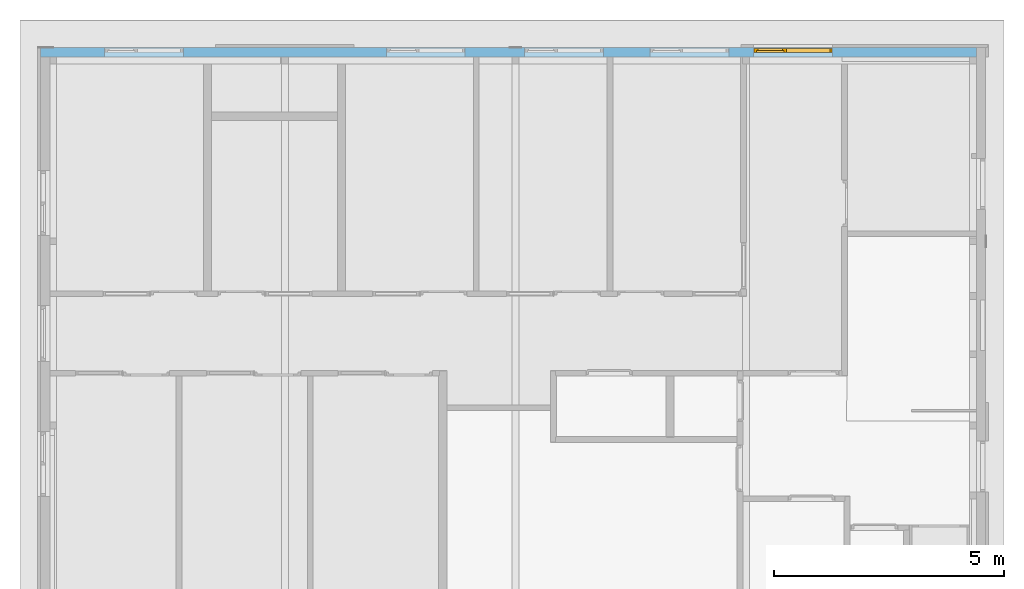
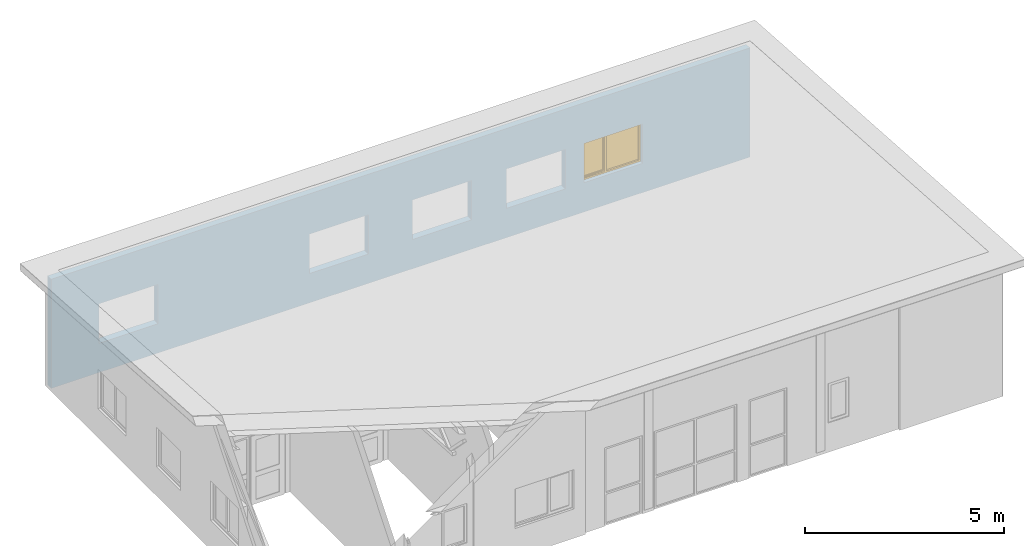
# One storey, part 25 of 37: 1 window, 5 openings, plus 1 element that does not belong to this part.
"""IFC2X3 building model written with IfcOpenShell, lengths in millimetres."""

import ifcopenshell
import ifcopenshell.guid

model = None  # the IFC model being written
_history = None  # IfcOwnerHistory: only IFC2X3 demands one
_inside = {}  # id of a spatial element -> (the spatial element, [elements in it])
_under = {}  # id of a project, library or spatial element -> (it, [spatial elements below it])
_declared = {}  # id of a project -> (the project, [libraries it declares])
_typed = {}  # id of a type object -> (the type object, [elements of that type])
_made_of = {}  # id of a material, layer set ... -> (it, [elements and type objects made of it])


def new_model(schema):
    """Start an empty IFC model of exactly this schema.

    Asked for "IFC4X3", IfcOpenShell would pick the latest addendum, in which some entities
    have other attributes; the version numbers below select the first issue.
    IFC2X3 requires an IfcOwnerHistory on every rooted entity: one is made here for all.
    """
    global model, _history
    if schema == "IFC4X3":
        model = ifcopenshell.file(schema_version=(4, 3, 0, 0))
    else:
        model = ifcopenshell.file(schema=schema)
    _inside.clear()
    _under.clear()
    _declared.clear()
    _typed.clear()
    _made_of.clear()
    _history = None
    if model.schema == "IFC2X3":
        org = make("IfcOrganization", Name="unknown")
        user = make(
            "IfcPersonAndOrganization",
            ThePerson=make("IfcPerson", FamilyName="unknown"),
            TheOrganization=org,
        )
        app = make(
            "IfcApplication",
            ApplicationDeveloper=org,
            Version="unknown",
            ApplicationFullName="unknown",
            ApplicationIdentifier="unknown",
        )
        _history = make(
            "IfcOwnerHistory",
            OwningUser=user,
            OwningApplication=app,
            ChangeAction="ADDED",
            CreationDate=0,
        )
    return model


def make(cls, **values):
    """One entity of the class cls with the attributes given. An attribute that is None is left unset."""
    return model.create_entity(
        cls, **{name: value for name, value in values.items() if value is not None}
    )


def entity(cls, *values):
    """Any entity or typed value of the class cls, its attributes in the order of the schema. None: left unset."""
    e = model.create_entity(cls)
    for i, value in enumerate(values):
        if value is not None:
            e[i] = value
    return e


def rooted(cls, **values):
    """An entity with a GlobalId (a new one), such as an element, a storey or a relation."""
    return make(cls, GlobalId=ifcopenshell.guid.new(), OwnerHistory=_history, **values)


def si_unit(unit_type, name, prefix=None):
    """IfcSIUnit, for example si_unit("LENGTHUNIT", "METRE", prefix="MILLI")."""
    return make("IfcSIUnit", UnitType=unit_type, Prefix=prefix, Name=name)


def converted_unit(unit_type, name, factor, base, dimensions=None, offset=None):
    """IfcConversionBasedUnit, such as the inch: factor (a typed value) times the base unit."""
    return make(
        "IfcConversionBasedUnit"
        if offset is None
        else "IfcConversionBasedUnitWithOffset",
        ConversionOffset=offset,
        Dimensions=None
        if dimensions is None
        else entity("IfcDimensionalExponents", *dimensions),
        UnitType=unit_type,
        Name=name,
        ConversionFactor=make(
            "IfcMeasureWithUnit", ValueComponent=factor, UnitComponent=base
        ),
    )


def assignment(units):
    """IfcUnitAssignment: the units of a project."""
    return None if units is None else make("IfcUnitAssignment", Units=units)


def point(xyz):
    """IfcCartesianPoint."""
    return None if xyz is None else make("IfcCartesianPoint", Coordinates=xyz)


def direction(xyz):
    """IfcDirection."""
    return None if xyz is None else make("IfcDirection", DirectionRatios=xyz)


def frame(location, z_axis=None, x_axis=None):
    """IfcAxis2Placement3D, a coordinate frame: its origin and axes. An axis left out is left unset."""
    return make(
        "IfcAxis2Placement3D",
        Location=point(location),
        Axis=direction(z_axis),
        RefDirection=direction(x_axis),
    )


def frame_2d(location, x_axis=None):
    """IfcAxis2Placement2D, a coordinate frame in the plane: its origin and x axis."""
    return make(
        "IfcAxis2Placement2D", Location=point(location), RefDirection=direction(x_axis)
    )


def origin():
    """The frame at (0, 0, 0) with its axes left unset."""
    return frame((0.0, 0.0, 0.0))


def origin_with_axes():
    """The frame at (0, 0, 0) with the z axis (0, 0, 1) and the x axis (1, 0, 0) written out."""
    return frame((0.0, 0.0, 0.0), z_axis=(0.0, 0.0, 1.0), x_axis=(1.0, 0.0, 0.0))


def place(relative_to, where):
    """IfcLocalPlacement: puts the frame where relative to a parent placement (None: the world)."""
    return make(
        "IfcLocalPlacement", PlacementRelTo=relative_to, RelativePlacement=where
    )


def context(
    kind, dimensions, precision=None, world=None, true_north=None, identifier=None
):
    """IfcGeometricRepresentationContext, for example the 3D "Model" context."""
    return make(
        "IfcGeometricRepresentationContext",
        ContextIdentifier=identifier,
        ContextType=kind,
        CoordinateSpaceDimension=dimensions,
        Precision=precision,
        WorldCoordinateSystem=world,
        TrueNorth=true_north,
    )


def subcontext(parent, identifier, kind, view, scale=None):
    """IfcGeometricRepresentationSubContext, for example "Body" below "Model"."""
    return make(
        "IfcGeometricRepresentationSubContext",
        ContextIdentifier=identifier,
        ContextType=kind,
        ParentContext=parent,
        TargetScale=scale,
        TargetView=view,
    )


def project(units=None, contexts=None):
    """IfcProject with its units and contexts."""
    return rooted(
        "IfcProject",
        Name="project",
        RepresentationContexts=contexts,
        UnitsInContext=assignment(units),
    )


def spatial(cls, under=None, at=None, **own):
    """A site, building, storey or space (cls), placed at a placement, below another one or the project."""
    s = rooted(cls, ObjectPlacement=at, **own)
    if under is not None:
        _under.setdefault(under.id(), (under, []))[1].append(s)
    return s


def profile(cls, at=None, kind="AREA", **sizes):
    """A parametric profile (cls). Its sizes go by their IFC names, for example OverallWidth=200.0."""
    return make(cls, ProfileType=kind, Position=at, **sizes)


def rectangle(**sizes):
    """IfcRectangleProfileDef."""
    return profile("IfcRectangleProfileDef", **sizes)


def extrude(swept, where, along, depth):
    """IfcExtrudedAreaSolid: the profile swept, set in the frame where, extruded along a direction by depth."""
    return make(
        "IfcExtrudedAreaSolid",
        SweptArea=swept,
        Position=where,
        ExtrudedDirection=direction(along),
        Depth=depth,
    )


def clip(a, b, op="DIFFERENCE"):
    """IfcBooleanClippingResult: the solid a cut by the half space b."""
    return make(
        "IfcBooleanClippingResult", Operator=op, FirstOperand=a, SecondOperand=b
    )


def halfspace(plane, agree):
    """IfcHalfSpaceSolid: all space on one side of the plane z = 0 of the frame plane."""
    return make(
        "IfcHalfSpaceSolid",
        BaseSurface=make("IfcPlane", Position=plane),
        AgreementFlag=agree,
    )


def faces_of(points, faces, orient=None, outer=None):
    """IfcFace entities. A face is a list of loops; a loop is a list of indices into points, from 0.

    orient and outer hold one flag for each loop. By default every Orientation is true, the
    first loop of a face is its IfcFaceOuterBound and the others are IfcFaceBound.
    """
    made = []
    for i, loops in enumerate(faces):
        bounds = []
        for j, loop in enumerate(loops):
            is_outer = j == 0 if outer is None else outer[i][j]
            bounds.append(
                make(
                    "IfcFaceOuterBound" if is_outer else "IfcFaceBound",
                    Bound=make("IfcPolyLoop", Polygon=[points[k] for k in loop]),
                    Orientation=True if orient is None else orient[i][j],
                )
            )
        made.append(make("IfcFace", Bounds=bounds))
    return made


def faceted_brep(points, faces, orient=None, outer=None, voids=None):
    """IfcFacetedBrep: a solid bounded by flat faces; with voids (closed shells), ...WithVoids."""
    shared = [point(p) for p in points]
    hull = make("IfcClosedShell", CfsFaces=faces_of(shared, faces, orient, outer))
    if voids is None:
        return make("IfcFacetedBrep", Outer=hull)
    return make(
        "IfcFacetedBrepWithVoids",
        Outer=hull,
        Voids=[
            make(cls, CfsFaces=faces_of(shared, fs, o, b)) for cls, fs, o, b in voids
        ],
    )


def shape(context_of_items, identifier, shape_type, items):
    """IfcShapeRepresentation: the items that make up one representation, for example the "Body"."""
    return make(
        "IfcShapeRepresentation",
        ContextOfItems=context_of_items,
        RepresentationIdentifier=identifier,
        RepresentationType=shape_type,
        Items=items,
    )


def material(Name=None, Category=None):
    """IfcMaterial."""
    return make("IfcMaterial", Name=Name, Category=Category)


def layer(
    of_material, thickness, ventilated=None, Name=None, Category=None, Priority=None
):
    """IfcMaterialLayer: one layer of a wall or slab, of a material (None: an air gap)."""
    return make(
        "IfcMaterialLayer",
        Material=of_material,
        LayerThickness=thickness,
        IsVentilated=ventilated,
        Name=Name,
        Category=Category,
        Priority=Priority,
    )


def layer_set(layers, Name=None):
    """IfcMaterialLayerSet."""
    return make("IfcMaterialLayerSet", MaterialLayers=layers, LayerSetName=Name)


def layer_usage(for_layer_set, set_direction, sense, offset, extent=None):
    """IfcMaterialLayerSetUsage: how a layer set lies in its element."""
    return make(
        "IfcMaterialLayerSetUsage",
        ForLayerSet=for_layer_set,
        LayerSetDirection=set_direction,
        DirectionSense=sense,
        OffsetFromReferenceLine=offset,
        ReferenceExtent=extent,
    )


def made_of(thing, what):
    """Note that an element or type object is made of a material, layer set ...; save() writes the relation."""
    if what is not None:
        _made_of.setdefault(what.id(), (what, []))[1].append(thing)
    return thing


def type_object(cls, material=None, **own):
    """A type object (cls), such as IfcWallType, which elements share."""
    return made_of(rooted(cls, **own), material)


def element(
    cls,
    number,
    at=None,
    inside=None,
    cuts=None,
    type_object=None,
    material=None,
    context=None,
    identifier="Body",
    shape_type=None,
    held_by="IfcProductDefinitionShape",
    body=None,
    shapes=None,
    **own,
):
    """One element of the class cls, such as IfcWall. Its Tag is "e" and its number.

    at: its placement. inside: the storey or other place that contains it. cuts: it is an
    opening in that element (IfcRelVoidsElement). A single representation is given by context,
    identifier, shape_type and body (its items); several are given by shapes. held_by: the class
    of the entity that holds the representations. save() writes the other relations.
    """
    e = rooted(cls, Tag="e%d" % number, ObjectPlacement=at, **own)
    if body is not None:
        shapes = [shape(context, identifier, shape_type, body)]
    if shapes is not None:
        e.Representation = make(held_by, Representations=shapes)
    if inside is not None:
        _inside.setdefault(inside.id(), (inside, []))[1].append(e)
    if cuts is not None:
        rooted(
            "IfcRelVoidsElement", RelatingBuildingElement=cuts, RelatedOpeningElement=e
        )
    if type_object is not None:
        _typed.setdefault(type_object.id(), (type_object, []))[1].append(e)
    return made_of(e, material)


def fill(opening, filler):
    """IfcRelFillsElement: the door or window that sits in an opening."""
    return rooted(
        "IfcRelFillsElement",
        RelatingOpeningElement=opening,
        RelatedBuildingElement=filler,
    )


def aggregate(whole, parts):
    """IfcRelAggregates: a whole, such as a stair, and the parts it consists of."""
    return rooted("IfcRelAggregates", RelatingObject=whole, RelatedObjects=parts)


def save(model, path):
    """Write the relations noted so far, then the file.

    IfcRelAggregates (storeys below a building ...), IfcRelContainedInSpatialStructure (elements
    in a storey), IfcRelDefinesByType, IfcRelAssociatesMaterial and IfcRelDeclares: one each for
    every whole, place, type object, material and project.
    """
    for whole, parts in _under.values():
        aggregate(whole, parts)
    for where, things in _inside.values():
        rooted(
            "IfcRelContainedInSpatialStructure",
            RelatedElements=things,
            RelatingStructure=where,
        )
    for kind, things in _typed.values():
        rooted("IfcRelDefinesByType", RelatedObjects=things, RelatingType=kind)
    for what, things in _made_of.values():
        rooted("IfcRelAssociatesMaterial", RelatedObjects=things, RelatingMaterial=what)
    for by, libraries in _declared.values():
        rooted("IfcRelDeclares", RelatingContext=by, RelatedDefinitions=libraries)
    model.write(path)


model = new_model("IFC2X3")

# Units and contexts
model_context = context("Model", 3, precision=1e-05, world=origin())
plan_context = context("Plan", 3, precision=1e-05, world=origin())
body_context = subcontext(model_context, "Body", "Model", "MODEL_VIEW")
ifc_project = project(units=[si_unit("LENGTHUNIT", "METRE", prefix="MILLI"), converted_unit("PLANEANGLEUNIT", "DEGREE", entity("IfcPlaneAngleMeasure", 0.0174532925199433), si_unit("PLANEANGLEUNIT", "RADIAN"), dimensions=[0, 0, 0, 0, 0, 0, 0]), si_unit("AREAUNIT", "SQUARE_METRE"), si_unit("VOLUMEUNIT", "CUBIC_METRE")], contexts=[model_context, plan_context])

# Building, storey
building_placement = place(None, origin())
building = spatial("IfcBuilding", under=ifc_project, at=building_placement, Name="HEKF Administrasjonbygg", CompositionType="ELEMENT")
storey_placement = place(building_placement, frame((0.0, 0.0, 9900.0), z_axis=(0.0, 0.0, 1.0), x_axis=(1.0, 0.0, 0.0)))
storey = spatial("IfcBuildingStorey", under=building, at=storey_placement, Name="Plan 2", CompositionType="ELEMENT", Elevation=9900.0)

# Wall, openings, window
ifc_material_1 = material(Name="Paroc 200")
ifc_layer = layer(ifc_material_1, 200.0)
ifc_layer_set = layer_set([ifc_layer])
ifc_layer_usage = layer_usage(ifc_layer_set, "AXIS2", "POSITIVE", 0.0)
wall_placement = place(storey_placement, frame((9699.999999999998, 0.0, 0.0), z_axis=(0.0, 0.0, 1.0), x_axis=(1.0, 0.0, 0.0)))
wall = element("IfcWallStandardCase", 1, at=wall_placement, inside=storey, material=ifc_layer_usage, context=body_context, shape_type="Clipping", body=[
    clip(extrude(rectangle(XDim=20300.0, YDim=200.0, at=frame_2d((10150.0, 100.0), x_axis=(1.0, 0.0))), origin_with_axes(), (0.0, 0.0, 1.0), 3349.999999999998), halfspace(frame((0.0, 0.0, 3349.999999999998), z_axis=(0.0, -0.06651901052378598, -0.9977851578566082), x_axis=(1.0, 0.0, 0.0)), True)),
])
opening_1_placement = place(wall_placement, frame((15470.0, 0.0, 900.0), z_axis=(0.0, 1.0, 0.0), x_axis=(0.0, 0.0, 1.0)))
opening_1 = element("IfcOpeningElement", 2, at=opening_1_placement, cuts=wall, Name="Window opening", ObjectType="Opening", context=body_context, shape_type="SweptSolid", body=[
    extrude(rectangle(XDim=1210.0, YDim=1710.0, at=frame_2d((605.0, 855.0), x_axis=(1.0, 0.0))), origin_with_axes(), (0.0, 0.0, 1.0), 200.0),
])
opening_2_placement = place(wall_placement, frame((7500.000000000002, 0.0, 900.0), z_axis=(0.0, 1.0, 0.0), x_axis=(0.0, 0.0, 1.0)))
element("IfcOpeningElement", 3, at=opening_2_placement, cuts=wall, Name="Window opening", ObjectType="Opening", context=body_context, shape_type="SweptSolid", body=[
    extrude(rectangle(XDim=1210.0, YDim=1710.0, at=frame_2d((605.0, 855.0), x_axis=(1.0, 0.0))), origin_with_axes(), (0.0, 0.0, 1.0), 200.0),
])
opening_3_placement = place(wall_placement, frame((13220.0, 0.0, 900.0), z_axis=(0.0, 1.0, 0.0), x_axis=(0.0, 0.0, 1.0)))
element("IfcOpeningElement", 4, at=opening_3_placement, cuts=wall, Name="Window opening", ObjectType="Opening", context=body_context, shape_type="SweptSolid", body=[
    extrude(rectangle(XDim=1210.0, YDim=1710.0, at=frame_2d((605.0, 855.0), x_axis=(1.0, 0.0))), origin_with_axes(), (0.0, 0.0, 1.0), 200.0),
])
opening_4_placement = place(wall_placement, frame((10500.0, 0.0, 900.0), z_axis=(0.0, 1.0, 0.0), x_axis=(0.0, 0.0, 1.0)))
element("IfcOpeningElement", 5, at=opening_4_placement, cuts=wall, Name="Window opening", ObjectType="Opening", context=body_context, shape_type="SweptSolid", body=[
    extrude(rectangle(XDim=1210.0, YDim=1710.0, at=frame_2d((605.0, 855.0), x_axis=(1.0, 0.0))), origin_with_axes(), (0.0, 0.0, 1.0), 200.0),
])
opening_5_placement = place(wall_placement, frame((1390.000000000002, 0.0, 900.0), z_axis=(0.0, 1.0, 0.0), x_axis=(0.0, 0.0, 1.0)))
element("IfcOpeningElement", 6, at=opening_5_placement, cuts=wall, Name="Window opening", ObjectType="Opening", context=body_context, shape_type="SweptSolid", body=[
    extrude(rectangle(XDim=1210.0, YDim=1710.0, at=frame_2d((605.0, 855.0), x_axis=(1.0, 0.0))), origin_with_axes(), (0.0, 0.0, 1.0), 200.0),
])
ifc_material_2 = material()
window_style = type_object("IfcWindowStyle", Name="V210", ConstructionType="NOTDEFINED", OperationType="USERDEFINED", ParameterTakesPrecedence=False, Sizeable=False)
window_placement = place(opening_1_placement, frame((0.0, 0.0, 0.0), z_axis=(1.0, 0.0, 0.0), x_axis=(0.0, 1.0, 0.0)))
window = element("IfcWindow", 7, at=window_placement, inside=storey, type_object=window_style, material=ifc_material_2, Name="V210", OverallHeight=1210.0, OverallWidth=1710.0, context=body_context, shape_type="Brep", body=[
    faceted_brep([(1700.0, 93.99999999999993, 1200.0), (1700.0, 94.0, 9.999999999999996), (1650.0, 94.00000000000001, 9.999999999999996), (1650.0, 93.99999999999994, 1200.0), (1700.0, 186.0, 10.0), (1700.0, 185.9999999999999, 1200.0), (1650.0, 185.9999999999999, 1200.0), (1650.0, 186.0, 10.0), (1700.0, 94.0, 9.999999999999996), (1700.0, 93.99999999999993, 1200.0), (1700.0, 185.9999999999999, 1200.0), (1700.0, 186.0, 10.0), (1650.0, 94.00000000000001, 9.999999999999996), (1700.0, 94.0, 9.999999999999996), (1700.0, 186.0, 10.0), (1650.0, 186.0, 10.0), (1650.0, 93.99999999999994, 1200.0), (1650.0, 94.00000000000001, 9.999999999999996), (1650.0, 186.0, 10.0), (1650.0, 185.9999999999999, 1200.0), (1700.0, 93.99999999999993, 1200.0), (1650.0, 93.99999999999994, 1200.0), (1650.0, 185.9999999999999, 1200.0), (1700.0, 185.9999999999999, 1200.0)], [[[0, 1, 2, 3]], [[4, 5, 6, 7]], [[8, 9, 10, 11]], [[12, 13, 14, 15]], [[16, 17, 18, 19]], [[20, 21, 22, 23]]], orient=[[False], [False], [False], [False], [False], [False]]),
    faceted_brep([(60.0, 94.00000000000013, 1200.0), (60.0, 94.0000000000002, 9.999999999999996), (10.0, 94.00000000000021, 9.999999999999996), (10.0, 94.00000000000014, 1200.0), (60.0, 186.0000000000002, 10.0), (60.0, 186.0000000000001, 1200.0), (10.0, 186.0000000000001, 1200.0), (10.0, 186.0000000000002, 10.0), (60.0, 94.0000000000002, 9.999999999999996), (60.0, 94.00000000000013, 1200.0), (60.0, 186.0000000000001, 1200.0), (60.0, 186.0000000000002, 10.0), (10.0, 94.00000000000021, 9.999999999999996), (60.0, 94.0000000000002, 9.999999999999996), (60.0, 186.0000000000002, 10.0), (10.0, 186.0000000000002, 10.0), (10.0, 94.00000000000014, 1200.0), (10.0, 94.00000000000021, 9.999999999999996), (10.0, 186.0000000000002, 10.0), (10.0, 186.0000000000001, 1200.0), (60.0, 94.00000000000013, 1200.0), (10.0, 94.00000000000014, 1200.0), (10.0, 186.0000000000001, 1200.0), (60.0, 186.0000000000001, 1200.0)], [[[0, 1, 2, 3]], [[4, 5, 6, 7]], [[8, 9, 10, 11]], [[12, 13, 14, 15]], [[16, 17, 18, 19]], [[20, 21, 22, 23]]], orient=[[False], [False], [False], [False], [False], [False]]),
    faceted_brep([(1650.0, 94.00000000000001, 60.0), (1650.0, 94.00000000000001, 9.999999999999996), (60.00000000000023, 94.0000000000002, 9.999999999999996), (60.00000000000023, 94.0000000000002, 60.0), (1650.0, 186.0, 10.0), (1650.0, 186.0, 60.0), (60.00000000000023, 186.0000000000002, 60.0), (60.00000000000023, 186.0000000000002, 10.0), (1650.0, 94.00000000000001, 9.999999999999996), (1650.0, 94.00000000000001, 60.0), (1650.0, 186.0, 60.0), (1650.0, 186.0, 10.0), (60.00000000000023, 94.0000000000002, 9.999999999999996), (1650.0, 94.00000000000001, 9.999999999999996), (1650.0, 186.0, 10.0), (60.00000000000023, 186.0000000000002, 10.0), (60.00000000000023, 94.0000000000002, 60.0), (60.00000000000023, 94.0000000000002, 9.999999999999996), (60.00000000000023, 186.0000000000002, 10.0), (60.00000000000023, 186.0000000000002, 60.0), (1650.0, 94.00000000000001, 60.0), (60.00000000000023, 94.0000000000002, 60.0), (60.00000000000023, 186.0000000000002, 60.0), (1650.0, 186.0, 60.0)], [[[0, 1, 2, 3]], [[4, 5, 6, 7]], [[8, 9, 10, 11]], [[12, 13, 14, 15]], [[16, 17, 18, 19]], [[20, 21, 22, 23]]], orient=[[False], [False], [False], [False], [False], [False]]),
    faceted_brep([(1650.0, 93.99999999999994, 1200.0), (1650.0, 93.99999999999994, 1150.0), (60.00000000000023, 94.00000000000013, 1150.0), (60.00000000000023, 94.00000000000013, 1200.0), (1650.0, 185.9999999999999, 1150.0), (1650.0, 185.9999999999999, 1200.0), (60.00000000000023, 186.0000000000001, 1200.0), (60.00000000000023, 186.0000000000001, 1150.0), (1650.0, 93.99999999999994, 1150.0), (1650.0, 93.99999999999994, 1200.0), (1650.0, 185.9999999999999, 1200.0), (1650.0, 185.9999999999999, 1150.0), (60.00000000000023, 94.00000000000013, 1150.0), (1650.0, 93.99999999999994, 1150.0), (1650.0, 185.9999999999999, 1150.0), (60.00000000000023, 186.0000000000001, 1150.0), (60.00000000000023, 94.00000000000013, 1200.0), (60.00000000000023, 94.00000000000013, 1150.0), (60.00000000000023, 186.0000000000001, 1150.0), (60.00000000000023, 186.0000000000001, 1200.0), (1650.0, 93.99999999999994, 1200.0), (60.00000000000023, 94.00000000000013, 1200.0), (60.00000000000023, 186.0000000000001, 1200.0), (1650.0, 185.9999999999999, 1200.0)], [[[0, 1, 2, 3]], [[4, 5, 6, 7]], [[8, 9, 10, 11]], [[12, 13, 14, 15]], [[16, 17, 18, 19]], [[20, 21, 22, 23]]], orient=[[False], [False], [False], [False], [False], [False]]),
    faceted_brep([(710.0000000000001, 94.00000000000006, 1150.0), (710.0000000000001, 94.00000000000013, 60.00000000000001), (660.0, 94.00000000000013, 60.00000000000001), (660.0, 94.00000000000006, 1150.0), (710.0000000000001, 186.0000000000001, 60.00000000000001), (710.0000000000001, 186.0000000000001, 1150.0), (660.0, 186.0000000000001, 1150.0), (660.0, 186.0000000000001, 60.00000000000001), (710.0000000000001, 94.00000000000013, 60.00000000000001), (710.0000000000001, 94.00000000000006, 1150.0), (710.0000000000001, 186.0000000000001, 1150.0), (710.0000000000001, 186.0000000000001, 60.00000000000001), (660.0, 94.00000000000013, 60.00000000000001), (710.0000000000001, 94.00000000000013, 60.00000000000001), (710.0000000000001, 186.0000000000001, 60.00000000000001), (660.0, 186.0000000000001, 60.00000000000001), (660.0, 94.00000000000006, 1150.0), (660.0, 94.00000000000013, 60.00000000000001), (660.0, 186.0000000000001, 60.00000000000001), (660.0, 186.0000000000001, 1150.0), (710.0000000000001, 94.00000000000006, 1150.0), (660.0, 94.00000000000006, 1150.0), (660.0, 186.0000000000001, 1150.0), (710.0000000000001, 186.0000000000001, 1150.0)], [[[0, 1, 2, 3]], [[4, 5, 6, 7]], [[8, 9, 10, 11]], [[12, 13, 14, 15]], [[16, 17, 18, 19]], [[20, 21, 22, 23]]], orient=[[False], [False], [False], [False], [False], [False]]),
    faceted_brep([(1650.0, 140.0, 60.00000000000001), (710.0000000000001, 140.0000000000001, 60.00000000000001), (710.0000000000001, 140.0000000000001, 1150.0), (1650.0, 139.9999999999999, 1150.0), (1650.0, 141.0, 60.00000000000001), (1650.0, 140.9999999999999, 1150.0), (710.0000000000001, 141.0000000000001, 1150.0), (710.0000000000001, 141.0000000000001, 60.00000000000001), (1650.0, 140.0, 60.00000000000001), (1650.0, 141.0, 60.00000000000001), (710.0000000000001, 141.0000000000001, 60.00000000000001), (710.0000000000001, 140.0000000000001, 60.00000000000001), (710.0000000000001, 140.0000000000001, 60.00000000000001), (710.0000000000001, 141.0000000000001, 60.00000000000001), (710.0000000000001, 141.0000000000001, 1150.0), (710.0000000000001, 140.0000000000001, 1150.0), (710.0000000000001, 140.0000000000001, 1150.0), (710.0000000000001, 141.0000000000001, 1150.0), (1650.0, 140.9999999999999, 1150.0), (1650.0, 139.9999999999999, 1150.0), (1650.0, 139.9999999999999, 1150.0), (1650.0, 140.9999999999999, 1150.0), (1650.0, 141.0, 60.00000000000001), (1650.0, 140.0, 60.00000000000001)], [[[0, 1, 2, 3]], [[4, 5, 6, 7]], [[8, 9, 10, 11]], [[12, 13, 14, 15]], [[16, 17, 18, 19]], [[20, 21, 22, 23]]], orient=[[False], [False], [False], [False], [False], [False]]),
    faceted_brep([(680.0000000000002, 136.0000000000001, 1170.0), (680.0000000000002, 136.0000000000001, 40.0), (630.0000000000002, 136.0000000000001, 40.0), (630.0000000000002, 136.0000000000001, 1170.0), (680.0000000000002, 186.0000000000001, 40.0), (680.0000000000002, 186.0000000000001, 1170.0), (630.0000000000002, 186.0000000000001, 1170.0), (630.0000000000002, 186.0000000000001, 40.0), (680.0000000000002, 136.0000000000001, 40.0), (680.0000000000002, 136.0000000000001, 1170.0), (680.0000000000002, 186.0000000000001, 1170.0), (680.0000000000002, 186.0000000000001, 40.0), (630.0000000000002, 136.0000000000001, 40.0), (680.0000000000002, 136.0000000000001, 40.0), (680.0000000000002, 186.0000000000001, 40.0), (630.0000000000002, 186.0000000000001, 40.0), (630.0000000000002, 136.0000000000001, 1170.0), (630.0000000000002, 136.0000000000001, 40.0), (630.0000000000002, 186.0000000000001, 40.0), (630.0000000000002, 186.0000000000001, 1170.0), (680.0000000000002, 136.0000000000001, 1170.0), (630.0000000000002, 136.0000000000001, 1170.0), (630.0000000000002, 186.0000000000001, 1170.0), (680.0000000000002, 186.0000000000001, 1170.0)], [[[0, 1, 2, 3]], [[4, 5, 6, 7]], [[8, 9, 10, 11]], [[12, 13, 14, 15]], [[16, 17, 18, 19]], [[20, 21, 22, 23]]], orient=[[False], [False], [False], [False], [False], [False]]),
    faceted_brep([(90.00000000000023, 136.0000000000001, 1170.0), (90.00000000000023, 136.0000000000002, 40.0), (40.00000000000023, 136.0000000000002, 40.0), (40.00000000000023, 136.0000000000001, 1170.0), (90.00000000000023, 186.0000000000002, 40.0), (90.00000000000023, 186.0000000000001, 1170.0), (40.00000000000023, 186.0000000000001, 1170.0), (40.00000000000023, 186.0000000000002, 40.0), (90.00000000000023, 136.0000000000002, 40.0), (90.00000000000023, 136.0000000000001, 1170.0), (90.00000000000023, 186.0000000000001, 1170.0), (90.00000000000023, 186.0000000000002, 40.0), (40.00000000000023, 136.0000000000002, 40.0), (90.00000000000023, 136.0000000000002, 40.0), (90.00000000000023, 186.0000000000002, 40.0), (40.00000000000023, 186.0000000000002, 40.0), (40.00000000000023, 136.0000000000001, 1170.0), (40.00000000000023, 136.0000000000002, 40.0), (40.00000000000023, 186.0000000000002, 40.0), (40.00000000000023, 186.0000000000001, 1170.0), (90.00000000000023, 136.0000000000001, 1170.0), (40.00000000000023, 136.0000000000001, 1170.0), (40.00000000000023, 186.0000000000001, 1170.0), (90.00000000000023, 186.0000000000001, 1170.0)], [[[0, 1, 2, 3]], [[4, 5, 6, 7]], [[8, 9, 10, 11]], [[12, 13, 14, 15]], [[16, 17, 18, 19]], [[20, 21, 22, 23]]], orient=[[False], [False], [False], [False], [False], [False]]),
    faceted_brep([(630.0000000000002, 136.0000000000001, 90.0), (630.0000000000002, 136.0000000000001, 40.0), (90.00000000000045, 136.0000000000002, 40.0), (90.00000000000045, 136.0000000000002, 90.0), (630.0000000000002, 186.0000000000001, 40.0), (630.0000000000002, 186.0000000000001, 90.0), (90.00000000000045, 186.0000000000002, 90.0), (90.00000000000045, 186.0000000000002, 40.0), (630.0000000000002, 136.0000000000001, 40.0), (630.0000000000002, 136.0000000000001, 90.0), (630.0000000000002, 186.0000000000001, 90.0), (630.0000000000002, 186.0000000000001, 40.0), (90.00000000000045, 136.0000000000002, 40.0), (630.0000000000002, 136.0000000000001, 40.0), (630.0000000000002, 186.0000000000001, 40.0), (90.00000000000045, 186.0000000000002, 40.0), (90.00000000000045, 136.0000000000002, 90.0), (90.00000000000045, 136.0000000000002, 40.0), (90.00000000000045, 186.0000000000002, 40.0), (90.00000000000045, 186.0000000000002, 90.0), (630.0000000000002, 136.0000000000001, 90.0), (90.00000000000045, 136.0000000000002, 90.0), (90.00000000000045, 186.0000000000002, 90.0), (630.0000000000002, 186.0000000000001, 90.0)], [[[0, 1, 2, 3]], [[4, 5, 6, 7]], [[8, 9, 10, 11]], [[12, 13, 14, 15]], [[16, 17, 18, 19]], [[20, 21, 22, 23]]], orient=[[False], [False], [False], [False], [False], [False]]),
    faceted_brep([(630.0000000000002, 136.0000000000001, 1170.0), (630.0000000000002, 136.0000000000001, 1120.0), (90.00000000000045, 136.0000000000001, 1120.0), (90.00000000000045, 136.0000000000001, 1170.0), (630.0000000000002, 186.0000000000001, 1120.0), (630.0000000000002, 186.0000000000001, 1170.0), (90.00000000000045, 186.0000000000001, 1170.0), (90.00000000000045, 186.0000000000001, 1120.0), (630.0000000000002, 136.0000000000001, 1120.0), (630.0000000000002, 136.0000000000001, 1170.0), (630.0000000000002, 186.0000000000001, 1170.0), (630.0000000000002, 186.0000000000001, 1120.0), (90.00000000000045, 136.0000000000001, 1120.0), (630.0000000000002, 136.0000000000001, 1120.0), (630.0000000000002, 186.0000000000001, 1120.0), (90.00000000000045, 186.0000000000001, 1120.0), (90.00000000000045, 136.0000000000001, 1170.0), (90.00000000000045, 136.0000000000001, 1120.0), (90.00000000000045, 186.0000000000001, 1120.0), (90.00000000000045, 186.0000000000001, 1170.0), (630.0000000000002, 136.0000000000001, 1170.0), (90.00000000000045, 136.0000000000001, 1170.0), (90.00000000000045, 186.0000000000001, 1170.0), (630.0000000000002, 186.0000000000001, 1170.0)], [[[0, 1, 2, 3]], [[4, 5, 6, 7]], [[8, 9, 10, 11]], [[12, 13, 14, 15]], [[16, 17, 18, 19]], [[20, 21, 22, 23]]], orient=[[False], [False], [False], [False], [False], [False]]),
    faceted_brep([(630.0000000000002, 161.0000000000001, 90.00000000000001), (90.00000000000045, 161.0000000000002, 90.00000000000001), (90.00000000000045, 161.0000000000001, 1120.0), (630.0000000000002, 161.0000000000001, 1120.0), (630.0000000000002, 162.0000000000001, 90.00000000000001), (630.0000000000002, 162.0000000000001, 1120.0), (90.00000000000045, 162.0000000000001, 1120.0), (90.00000000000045, 162.0000000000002, 90.00000000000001), (630.0000000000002, 161.0000000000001, 90.00000000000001), (630.0000000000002, 162.0000000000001, 90.00000000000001), (90.00000000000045, 162.0000000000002, 90.00000000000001), (90.00000000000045, 161.0000000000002, 90.00000000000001), (90.00000000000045, 161.0000000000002, 90.00000000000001), (90.00000000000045, 162.0000000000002, 90.00000000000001), (90.00000000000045, 162.0000000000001, 1120.0), (90.00000000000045, 161.0000000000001, 1120.0), (90.00000000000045, 161.0000000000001, 1120.0), (90.00000000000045, 162.0000000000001, 1120.0), (630.0000000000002, 162.0000000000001, 1120.0), (630.0000000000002, 161.0000000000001, 1120.0), (630.0000000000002, 161.0000000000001, 1120.0), (630.0000000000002, 162.0000000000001, 1120.0), (630.0000000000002, 162.0000000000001, 90.00000000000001), (630.0000000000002, 161.0000000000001, 90.00000000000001)], [[[0, 1, 2, 3]], [[4, 5, 6, 7]], [[8, 9, 10, 11]], [[12, 13, 14, 15]], [[16, 17, 18, 19]], [[20, 21, 22, 23]]], orient=[[False], [False], [False], [False], [False], [False]]),
])
fill(opening_1, window)

save(model, "model.ifc")
